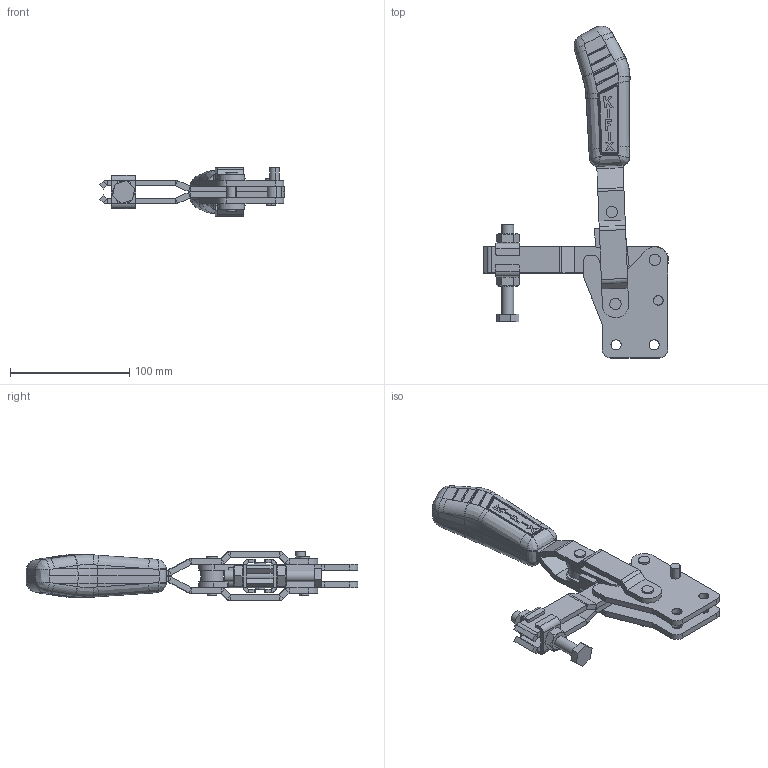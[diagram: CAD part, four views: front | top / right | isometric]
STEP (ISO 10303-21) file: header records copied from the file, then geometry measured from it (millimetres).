
FILE_DESCRIPTION (( 'STEP AP203' ), '1' );
FILE_NAME ('KF-111 RB.STEP', '2014-07-28T19:00:24', ( 'Ricardo' ), ( '' ), 'SwSTEP 2.0', 'SolidWorks 2013', '' );
FILE_SCHEMA (( 'CONFIG_CONTROL_DESIGN' ));
Length unit declared in the file: millimetre
Products named in the file (14): 01.10014; 12.50004; 04.10003A_Direita; 07.60003; 04.10003B_Direita; 02.11008; 04.20003; KF-111 RB; 05.20006; 06.50009; 06.50010; 14.10002; 03.13006; 11.50003
Assembly tree (20 placements, depth 2):
  KF-111 RB
    03.13006  x2
    01.10014  x2
    04.10003A_Direita
    04.10003B_Direita
    04.20003
    05.20006
    06.50009  x2
    06.50010  x2
    14.10002  x2
    11.50003  x2
    12.50004
    07.60003
    02.11008  x2
Bounding box: 155.38 x 278.8 x 41 mm (x, y, z)
Volume: 261071 mm3; surface area: 106668.2 mm2
Topology: 20 solids, 20 shells, 847 faces, 2039 edges, 1243 vertices
Faces by surface type: plane 361, cylinder 260, bspline 143, sphere 48, cone 32, torus 3
Entity records: 24451 total; most frequent: CARTESIAN_POINT 8706, ORIENTED_EDGE 3184, DIRECTION 2545, EDGE_CURVE 1592, VERTEX_POINT 987, AXIS2_PLACEMENT_3D 976, EDGE_LOOP 719, FACE_OUTER_BOUND 658
